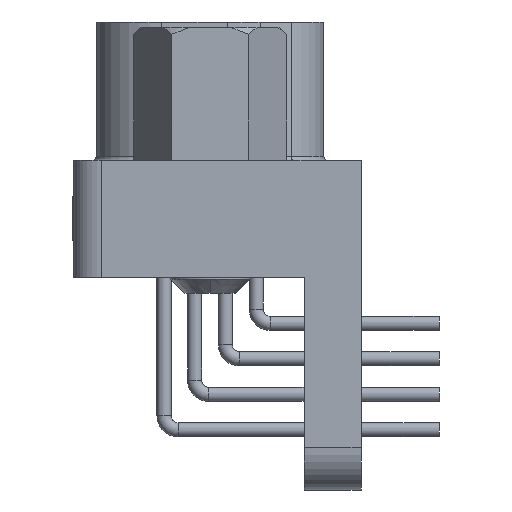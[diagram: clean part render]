
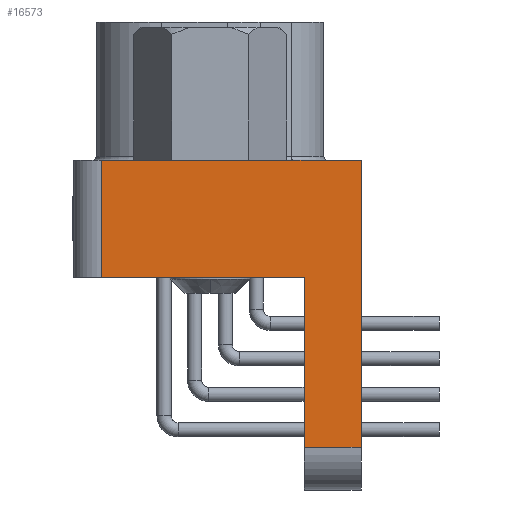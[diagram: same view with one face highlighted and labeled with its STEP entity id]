
A CAD part, left-side view. The second image highlights one B-rep face of the part: STEP entity #16573.
In plain terms, the highlighted planar face has unit normal (-1, 0, 0).
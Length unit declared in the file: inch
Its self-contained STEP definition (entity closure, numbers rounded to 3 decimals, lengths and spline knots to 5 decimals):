
#314 = CARTESIAN_POINT ( 'NONE',  ( -1.08, 0.153, 0.04 ) ) ;
#582 = VECTOR ( 'NONE', #50755, 39.37008 ) ;
#1655 = FACE_OUTER_BOUND ( 'NONE', #22334, .T. ) ;
#2094 = PLANE ( 'NONE',  #8626 ) ;
#2397 = ORIENTED_EDGE ( 'NONE', *, *, #35086, .T. ) ;
#4562 = ORIENTED_EDGE ( 'NONE', *, *, #29214, .F. ) ;
#4826 = VECTOR ( 'NONE', #64295, 39.37008 ) ;
#7514 = DIRECTION ( 'NONE',  ( 1., 0., 0. ) ) ;
#7672 = LINE ( 'NONE', #76642, #36430 ) ;
#8035 = LINE ( 'NONE', #35643, #4826 ) ;
#8626 = AXIS2_PLACEMENT_3D ( 'NONE', #314, #7514, #10646 ) ;
#9849 = CARTESIAN_POINT ( 'NONE',  ( -1.08, -0.213, 0.04 ) ) ;
#10646 = DIRECTION ( 'NONE',  ( 0., 0., 1. ) ) ;
#12530 = LINE ( 'NONE', #24304, #80578 ) ;
#16573 = ADVANCED_FACE ( 'NONE', ( #1655 ), #2094, .F. ) ;
#21605 = CARTESIAN_POINT ( 'NONE',  ( -1.08, 0.153, 0.04 ) ) ;
#22334 = EDGE_LOOP ( 'NONE', ( #2397, #76454, #73868, #44403, #4562, #64538 ) ) ;
#24304 = CARTESIAN_POINT ( 'NONE',  ( -1.08, 0.153, 0.04 ) ) ;
#29214 = EDGE_CURVE ( 'NONE', #51401, #67966, #8035, .T. ) ;
#29279 = DIRECTION ( 'NONE',  ( 0., -1., 0. ) ) ;
#30963 = EDGE_CURVE ( 'NONE', #73865, #67966, #7672, .T. ) ;
#31573 = DIRECTION ( 'NONE',  ( 0., 0., -1. ) ) ;
#31984 = EDGE_CURVE ( 'NONE', #76617, #51401, #70307, .T. ) ;
#33786 = VERTEX_POINT ( 'NONE', #64163 ) ;
#33963 = CARTESIAN_POINT ( 'NONE',  ( -1.08, -0.133, -0.365 ) ) ;
#35086 = EDGE_CURVE ( 'NONE', #76617, #33786, #12530, .T. ) ;
#35643 = CARTESIAN_POINT ( 'NONE',  ( -1.08, -0.213, 0.40878 ) ) ;
#36430 = VECTOR ( 'NONE', #56407, 39.37008 ) ;
#36771 = CARTESIAN_POINT ( 'NONE',  ( -1.08, -0.133, 0.40878 ) ) ;
#39037 = VECTOR ( 'NONE', #85045, 39.37008 ) ;
#44403 = ORIENTED_EDGE ( 'NONE', *, *, #30963, .T. ) ;
#44528 = CARTESIAN_POINT ( 'NONE',  ( -1.08, 0.153, 0.04 ) ) ;
#46892 = VERTEX_POINT ( 'NONE', #78822 ) ;
#50755 = DIRECTION ( 'NONE',  ( 0., 0., -1. ) ) ;
#51401 = VERTEX_POINT ( 'NONE', #9849 ) ;
#56407 = DIRECTION ( 'NONE',  ( 0., -1., 0. ) ) ;
#56891 = VECTOR ( 'NONE', #29279, 39.37008 ) ;
#63916 = LINE ( 'NONE', #84613, #39037 ) ;
#64163 = CARTESIAN_POINT ( 'NONE',  ( -1.08, 0.153, -0.125 ) ) ;
#64295 = DIRECTION ( 'NONE',  ( 0., 0., -1. ) ) ;
#64538 = ORIENTED_EDGE ( 'NONE', *, *, #31984, .F. ) ;
#67966 = VERTEX_POINT ( 'NONE', #70850 ) ;
#69255 = LINE ( 'NONE', #36771, #582 ) ;
#70307 = LINE ( 'NONE', #21605, #56891 ) ;
#70850 = CARTESIAN_POINT ( 'NONE',  ( -1.08, -0.213, -0.365 ) ) ;
#73865 = VERTEX_POINT ( 'NONE', #33963 ) ;
#73868 = ORIENTED_EDGE ( 'NONE', *, *, #86787, .T. ) ;
#76454 = ORIENTED_EDGE ( 'NONE', *, *, #84946, .T. ) ;
#76617 = VERTEX_POINT ( 'NONE', #44528 ) ;
#76642 = CARTESIAN_POINT ( 'NONE',  ( -1.08, -0.213, -0.365 ) ) ;
#78822 = CARTESIAN_POINT ( 'NONE',  ( -1.08, -0.133, -0.125 ) ) ;
#80578 = VECTOR ( 'NONE', #31573, 39.37008 ) ;
#84613 = CARTESIAN_POINT ( 'NONE',  ( -1.08, 0.153, -0.125 ) ) ;
#84946 = EDGE_CURVE ( 'NONE', #33786, #46892, #63916, .T. ) ;
#85045 = DIRECTION ( 'NONE',  ( 0., -1., 0. ) ) ;
#86787 = EDGE_CURVE ( 'NONE', #46892, #73865, #69255, .T. ) ;
